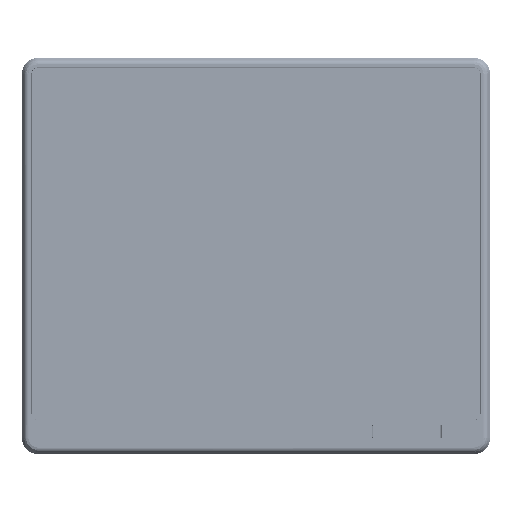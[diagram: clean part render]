
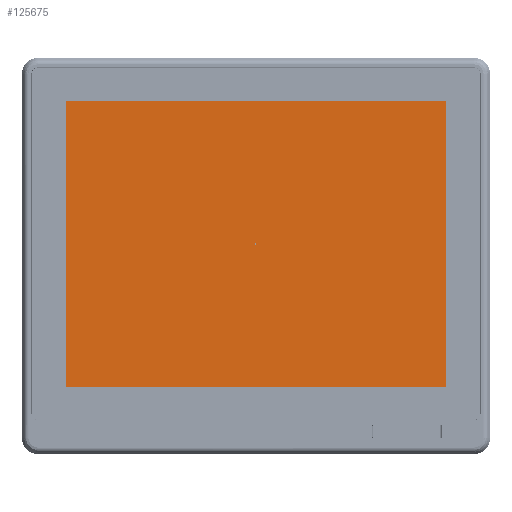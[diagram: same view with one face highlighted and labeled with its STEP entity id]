
A CAD part, top view. The second image highlights one B-rep face of the part: STEP entity #125675.
In plain terms, the highlighted planar face has unit normal (0, 0, 1).
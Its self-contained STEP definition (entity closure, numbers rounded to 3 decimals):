
#14681 = VERTEX_POINT ( 'NONE', #288894 ) ;
#16126 = DIRECTION ( 'NONE',  ( 0., -1., 0. ) ) ;
#19436 = CARTESIAN_POINT ( 'NONE',  ( -193.294, -96.131, 9.95 ) ) ;
#23629 = ORIENTED_EDGE ( 'NONE', *, *, #194141, .T. ) ;
#24707 = VECTOR ( 'NONE', #53572, 1000. ) ;
#28989 = DIRECTION ( 'NONE',  ( 0., 0., 1. ) ) ;
#38046 = AXIS2_PLACEMENT_3D ( 'NONE', #382830, #118147, #427225 ) ;
#53572 = DIRECTION ( 'NONE',  ( 0., 1., 0. ) ) ;
#58421 = EDGE_CURVE ( 'NONE', #571772, #571772, #431907, .T. ) ;
#69027 = CARTESIAN_POINT ( 'NONE',  ( -193.294, -96.131, 9.95 ) ) ;
#90325 = CARTESIAN_POINT ( 'NONE',  ( 54.706, -96.131, 9.95 ) ) ;
#100346 = ORIENTED_EDGE ( 'NONE', *, *, #289436, .T. ) ;
#118147 = DIRECTION ( 'NONE',  ( 0., 0., 1. ) ) ;
#125675 = ADVANCED_FACE ( 'NONE', ( #193286, #324456 ), #205149, .T. ) ;
#144675 = LINE ( 'NONE', #321181, #365783 ) ;
#150643 = EDGE_CURVE ( 'NONE', #453671, #358281, #537045, .T. ) ;
#193286 = FACE_OUTER_BOUND ( 'NONE', #370071, .T. ) ;
#194141 = EDGE_CURVE ( 'NONE', #234205, #14681, #259764, .T. ) ;
#201900 = EDGE_LOOP ( 'NONE', ( #362976 ) ) ;
#205149 = PLANE ( 'NONE',  #38046 ) ;
#234205 = VERTEX_POINT ( 'NONE', #90325 ) ;
#234500 = CARTESIAN_POINT ( 'NONE',  ( -193.294, 90.369, 9.95 ) ) ;
#259764 = LINE ( 'NONE', #318237, #24707 ) ;
#283801 = ORIENTED_EDGE ( 'NONE', *, *, #300667, .T. ) ;
#288894 = CARTESIAN_POINT ( 'NONE',  ( 54.706, 90.369, 9.95 ) ) ;
#289436 = EDGE_CURVE ( 'NONE', #358281, #234205, #492881, .T. ) ;
#293543 = CARTESIAN_POINT ( 'NONE',  ( -69.294, -2.881, 9.95 ) ) ;
#300667 = EDGE_CURVE ( 'NONE', #14681, #453671, #144675, .T. ) ;
#318237 = CARTESIAN_POINT ( 'NONE',  ( 54.706, 90.369, 9.95 ) ) ;
#321181 = CARTESIAN_POINT ( 'NONE',  ( -193.294, 90.369, 9.95 ) ) ;
#324456 = FACE_BOUND ( 'NONE', #201900, .T. ) ;
#337998 = DIRECTION ( 'NONE',  ( 0., -1., 0. ) ) ;
#358281 = VERTEX_POINT ( 'NONE', #69027 ) ;
#362976 = ORIENTED_EDGE ( 'NONE', *, *, #58421, .F. ) ;
#365783 = VECTOR ( 'NONE', #454407, 1000. ) ;
#370071 = EDGE_LOOP ( 'NONE', ( #502239, #100346, #23629, #283801 ) ) ;
#375411 = VECTOR ( 'NONE', #417401, 1000. ) ;
#382830 = CARTESIAN_POINT ( 'NONE',  ( -211.794, -113.881, 9.95 ) ) ;
#417401 = DIRECTION ( 'NONE',  ( 1., 0., 0. ) ) ;
#419673 = VECTOR ( 'NONE', #16126, 1000. ) ;
#427225 = DIRECTION ( 'NONE',  ( 0., -1., 0. ) ) ;
#431907 = CIRCLE ( 'NONE', #538008, 0.5 ) ;
#450990 = CARTESIAN_POINT ( 'NONE',  ( -69.294, -3.381, 9.95 ) ) ;
#453671 = VERTEX_POINT ( 'NONE', #467628 ) ;
#454407 = DIRECTION ( 'NONE',  ( -1., 0., 0. ) ) ;
#467628 = CARTESIAN_POINT ( 'NONE',  ( -193.294, 90.369, 9.95 ) ) ;
#492881 = LINE ( 'NONE', #19436, #375411 ) ;
#502239 = ORIENTED_EDGE ( 'NONE', *, *, #150643, .T. ) ;
#537045 = LINE ( 'NONE', #234500, #419673 ) ;
#538008 = AXIS2_PLACEMENT_3D ( 'NONE', #293543, #28989, #337998 ) ;
#571772 = VERTEX_POINT ( 'NONE', #450990 ) ;
